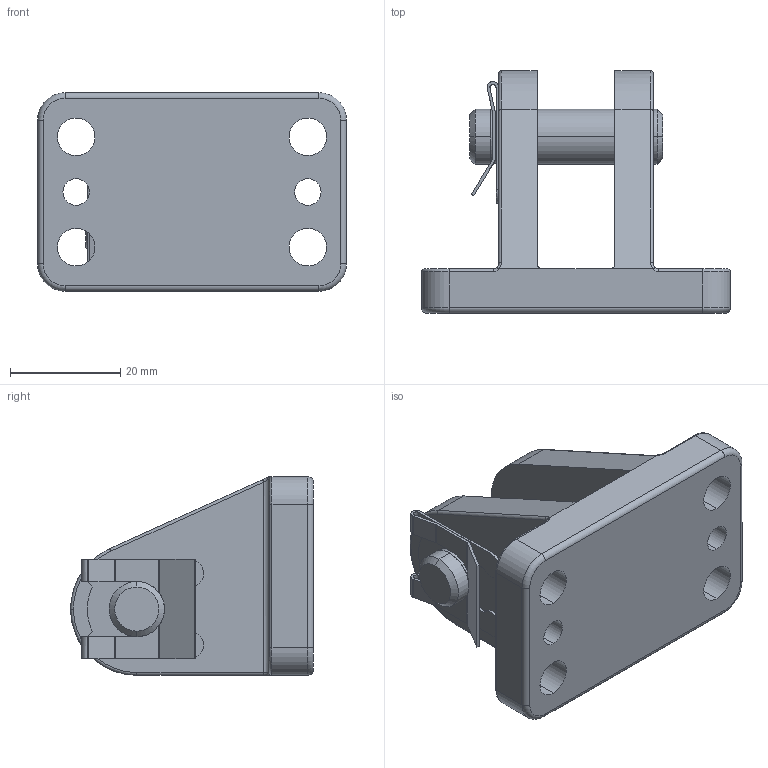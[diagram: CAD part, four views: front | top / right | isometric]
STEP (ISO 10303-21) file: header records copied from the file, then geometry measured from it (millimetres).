
FILE_DESCRIPTION (( 'STEP AP214' ), '1' );
FILE_NAME ('LBGUI-032.STEP', '2013-09-20T11:55:20', ( '' ), ( '' ), 'SwSTEP 2.0', 'SolidWorks 2009', '' );
FILE_SCHEMA (( 'AUTOMOTIVE_DESIGN' ));
Length unit declared in the file: millimetre
Products named in the file (4): SL-10; LBGUI_LBGUI-032; Bolzen_Bolzen-10-35; LBGUI-032
Assembly tree (3 placements, depth 2):
  LBGUI-032
    Bolzen_Bolzen-10-35
    SL-10
    LBGUI_LBGUI-032
Bounding box: 56 x 44 x 36 mm (x, y, z)
Volume: 29676.3 mm3; surface area: 12901.3 mm2
Topology: 3 solids, 3 shells, 141 faces, 368 edges, 234 vertices
Faces by surface type: cylinder 76, plane 43, torus 16, cone 4, bspline 2
Entity records: 5235 total; most frequent: CARTESIAN_POINT 972, DIRECTION 804, ORIENTED_EDGE 736, EDGE_CURVE 368, AXIS2_PLACEMENT_3D 315, VERTEX_POINT 234, VECTOR 174, LINE 174
